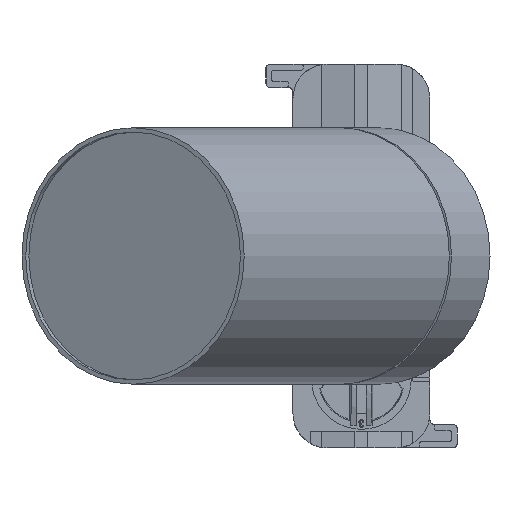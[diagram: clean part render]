
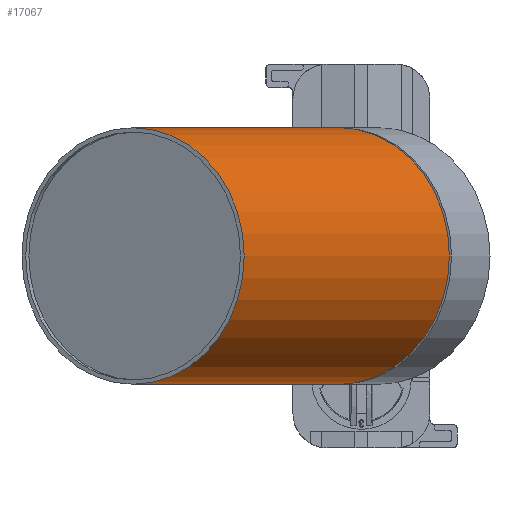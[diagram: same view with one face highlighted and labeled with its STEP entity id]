
A CAD part, front view. The second image highlights one B-rep face of the part: STEP entity #17067.
In plain terms, the highlighted cylindrical face has radius 30 mm (diameter 60 mm), a full revolution.
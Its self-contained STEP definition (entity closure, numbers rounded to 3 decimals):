
#1825=FACE_OUTER_BOUND('',#2725,.T.);
#2725=EDGE_LOOP('',(#15217,#15218,#15219,#15220));
#4511=LINE('',#28792,#6295);
#6295=VECTOR('',#22701,30.);
#6650=CIRCLE('',#18368,30.);
#6651=CIRCLE('',#18370,30.);
#8204=VERTEX_POINT('',#28787);
#8205=VERTEX_POINT('',#28790);
#10542=EDGE_CURVE('',#8204,#8204,#6650,.T.);
#10543=EDGE_CURVE('',#8205,#8205,#6651,.T.);
#10544=EDGE_CURVE('',#8205,#8204,#4511,.T.);
#15217=ORIENTED_EDGE('',*,*,#10543,.F.);
#15218=ORIENTED_EDGE('',*,*,#10544,.T.);
#15219=ORIENTED_EDGE('',*,*,#10542,.F.);
#15220=ORIENTED_EDGE('',*,*,#10544,.F.);
#15364=CYLINDRICAL_SURFACE('',#18369,30.);
#17067=ADVANCED_FACE('',(#1825),#15364,.T.);
#18368=AXIS2_PLACEMENT_3D('',#28788,#22695,#22696);
#18369=AXIS2_PLACEMENT_3D('',#28789,#22697,#22698);
#18370=AXIS2_PLACEMENT_3D('',#28791,#22699,#22700);
#22695=DIRECTION('center_axis',(-0.5,-0.866,0.));
#22696=DIRECTION('ref_axis',(0.,0.,
1.));
#22697=DIRECTION('center_axis',(0.5,0.866,0.));
#22698=DIRECTION('ref_axis',(0.,0.,
1.));
#22699=DIRECTION('center_axis',(0.5,0.866,0.));
#22700=DIRECTION('ref_axis',(0.,0.,
1.));
#22701=DIRECTION('',(-0.5,-0.866,0.));
#28787=CARTESIAN_POINT('',(-53.4,-151.941,-30.));
#28788=CARTESIAN_POINT('Origin',(-53.4,-151.941,0.));
#28789=CARTESIAN_POINT('Origin',(-29.4,-110.371,0.));
#28790=CARTESIAN_POINT('',(-5.4,-68.802,-30.));
#28791=CARTESIAN_POINT('Origin',(-5.4,-68.802,0.));
#28792=CARTESIAN_POINT('',(-29.4,-110.371,-30.));
